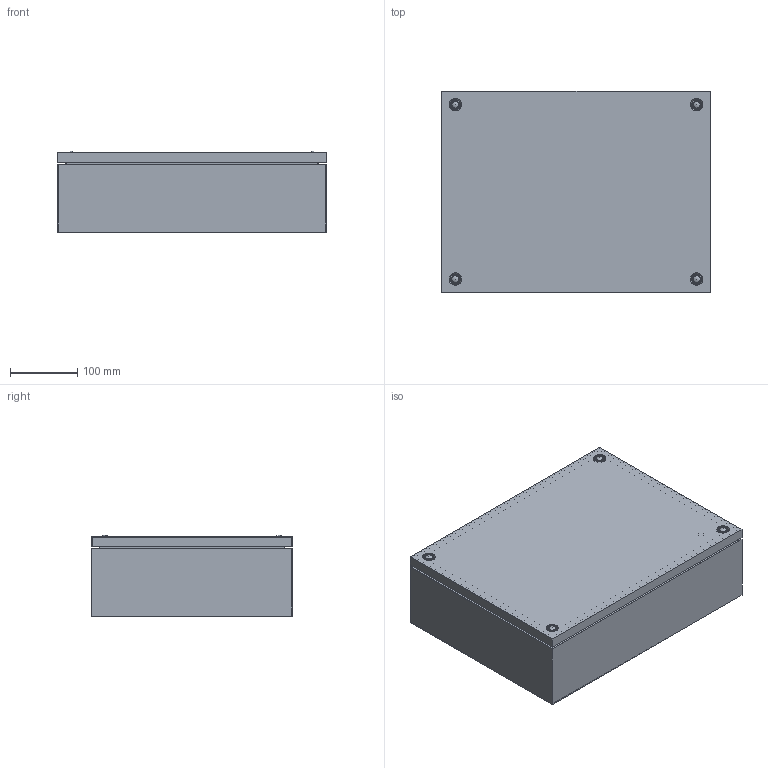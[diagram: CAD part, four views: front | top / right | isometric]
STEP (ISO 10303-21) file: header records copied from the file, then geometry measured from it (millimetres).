
FILE_DESCRIPTION( ( 'STEP AP214' ), '1' );
FILE_NAME( 'p:/temp/worker_258/temp/exporttempdir_996_276_Vy7Sc/format_0/SSTB304012(0).stp', '2021-03-16T12:13:34', ( 'License CC BY-ND 4.0' ), ( 'CADENAS' ), ' ', 'PARTsolutions', ' ' );
FILE_SCHEMA( ( 'AUTOMOTIVE_DESIGN { 1 0 10303 214 1 1 1 1 }' ) );
Length unit declared in the file: millimetre
Products named in the file (4): SSTB304012(0); _SSTB304012(0)_01; _SSTB3040XX(0)_02; _SSTBXXXXXX(0)_03
Assembly tree (6 placements, depth 2):
  SSTB304012(0)
    _SSTB304012(0)_01
    _SSTB3040XX(0)_02
    _SSTBXXXXXX(0)_03  x4
Bounding box: 400 x 300 x 121.3 mm (x, y, z)
Volume: 560807.6 mm3; surface area: 890633.9 mm2
Topology: 6 solids, 6 shells, 235 faces, 529 edges, 343 vertices
Faces by surface type: plane 145, cylinder 56, cone 30, sphere 4
Full cylindrical faces by diameter (mm): 4.9 x4, 6 x4, 7 x4, 7.22 x2, 7.5 x4, 8 x6, 9 x2, 10 x4, 16 x2
Entity records: 7026 total; most frequent: DIRECTION 934, CARTESIAN_POINT 933, ORIENTED_EDGE 828, EDGE_CURVE 414, AXIS2_PLACEMENT_3D 325, VERTEX_POINT 292, LINE 284, VECTOR 284
